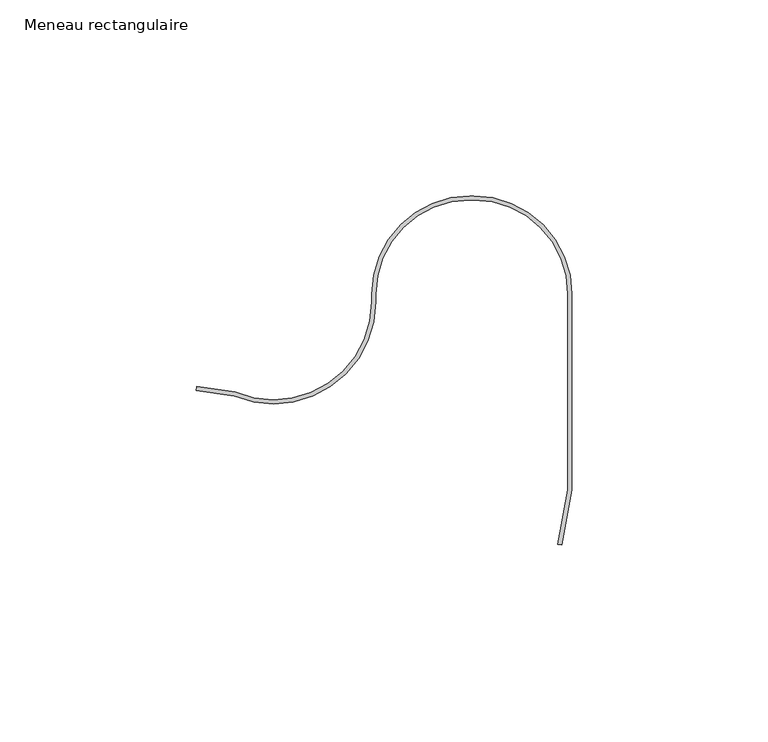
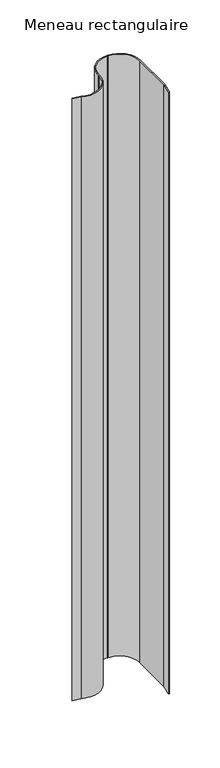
"""IFC4 building model written with IfcOpenShell, lengths in millimetres: member geometry, Meneau rectangulaire : Jonction contre mur Gauche V."""

from ifc_helpers import new_model, si_unit, point, frame, frame_2d, origin, place, context, project, spatial, polyline, circle_curve, trimmed, segment, composite_curve, outline, extrude, source, transform, mapped, element, save


def meneau_rectangulaire_74061857(model_context):
    return source(origin(), model_context, "Body", "SweptSolid", [
        extrude(outline(composite_curve([segment(polyline([(-1.0, -25.3470857), (-1.0, 24.6529143)]), True, "CONTINUOUS"), segment(trimmed(circle_curve(frame_2d((-25.0, 24.6529143)), 24.0), [point((-1.0, 24.6529143))], [point((-25.0, 48.6529143))], True, "CARTESIAN"), True, "CONTINUOUS"), segment(polyline([(-25.0, 48.6529143), (-26.0, 48.6529143)]), True, "CONTINUOUS"), segment(trimmed(circle_curve(frame_2d((-26.0, 24.6529143)), 24.0), [point((-26.0, 48.6529143))], [point((-50.0, 24.6529143))], True, "CARTESIAN"), True, "CONTINUOUS"), segment(polyline([(-50.0, 24.6529143), (-50.0, 22.6317013)]), True, "CONTINUOUS"), segment(trimmed(circle_curve(frame_2d((-76.0, 22.6317013)), 26.0), [point((-50.0, 22.6317013))], [point((-86.0341553, -1.3540388))], False, "CARTESIAN"), True, "CONTINUOUS"), segment(polyline([(-86.0341553, -1.3540388), (-95.8078149, 0.0195595), (-95.6686418, 1.0098276), (-85.7659612, -0.3819034)]), True, "CONTINUOUS"), segment(trimmed(circle_curve(frame_2d((-76.0, 22.6317013)), 25.0), [point((-85.7659612, -0.3819034))], [point((-51.0, 22.6317013))], True, "CARTESIAN"), True, "CONTINUOUS"), segment(polyline([(-51.0, 22.6317013), (-51.0, 24.6529143)]), True, "CONTINUOUS"), segment(trimmed(circle_curve(frame_2d((-26.0, 24.6529143)), 25.0), [point((-51.0, 24.6529143))], [point((-26.0, 49.6529143))], False, "CARTESIAN"), True, "CONTINUOUS"), segment(polyline([(-26.0, 49.6529143), (-25.0, 49.6529143)]), True, "CONTINUOUS"), segment(trimmed(circle_curve(frame_2d((-25.0, 24.6529143)), 25.0), [point((-25.0, 49.6529143))], [point((0.0, 24.6529143))], False, "CARTESIAN"), True, "CONTINUOUS"), segment(polyline([(0.0, 24.6529143), (0.0, -25.3470857), (-2.6384309, -39.3947769), (-3.6043568, -39.2133572), (-1.0, -25.3470857)]), True, "CONTINUOUS")], self_intersect=False)), frame((0.0, 0.0, -759.0), z_axis=(0.0, 0.0, 1.0), x_axis=(1.0, 0.0, 0.0)), (0.0, 0.0, 1.0), 759.0),
    ])


if __name__ == "__main__":
    model = new_model("IFC4")
    model_context = context("Model", 3, world=origin())
    ifc_project = project(units=[si_unit("LENGTHUNIT", "METRE", prefix="MILLI")], contexts=[model_context])
    site = spatial("IfcSite", under=ifc_project)
    building = spatial("IfcBuilding", under=site)
    placement = place(None, origin())
    meneau_rectangulaire_shape = meneau_rectangulaire_74061857(model_context)
    element("IfcMember", 1, ObjectType="Meneau rectangulaire : Jonction contre mur Gauche V", at=placement, inside=building, context=model_context, shape_type="MappedRepresentation", body=[
        mapped(meneau_rectangulaire_shape, transform((0.0, 0.0, 0.0), x_axis=(1.0, 0.0, 0.0), y_axis=(0.0, 1.0, 0.0), z_axis=(0.0, 0.0, 1.0))),
    ])
    save(model, "model.ifc")
